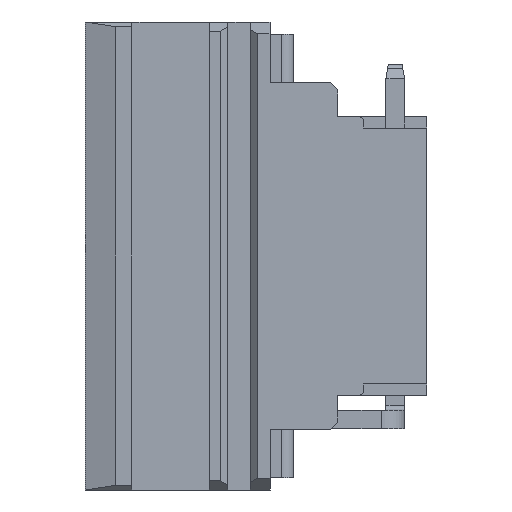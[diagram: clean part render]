
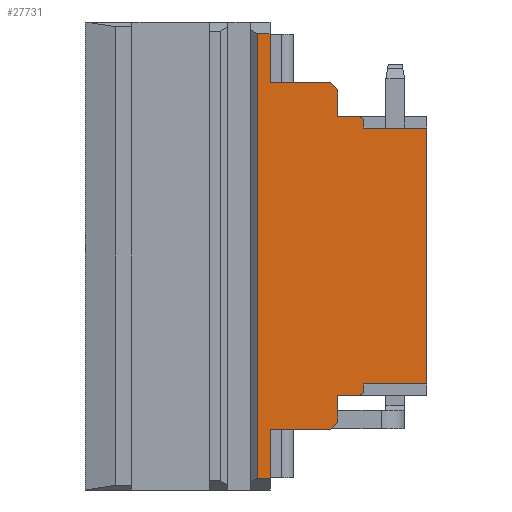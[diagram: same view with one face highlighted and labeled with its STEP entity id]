
A CAD part, left-side view. The second image highlights one B-rep face of the part: STEP entity #27731.
In plain terms, the highlighted planar face has unit normal (-1, 0, 0).
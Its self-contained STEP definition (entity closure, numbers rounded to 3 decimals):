
#1811=DIRECTION('',(0.,0.,-1.));
#1812=VECTOR('',#1811,10.94);
#1813=CARTESIAN_POINT('',(-8.3,-14.6,5.47));
#1814=LINE('',#1813,#1812);
#4881=DIRECTION('',(0.,-1.,0.));
#4882=VECTOR('',#4881,2.7);
#4883=CARTESIAN_POINT('',(-8.3,-11.9,5.47));
#4884=LINE('',#4883,#4882);
#9027=DIRECTION('',(0.,0.707,0.707));
#9028=VECTOR('',#9027,0.424);
#9029=CARTESIAN_POINT('',(-8.3,-10.8,7.1));
#9030=LINE('',#9029,#9028);
#9031=CARTESIAN_POINT('',(-8.3,-11.7,5.75));
#9032=DIRECTION('',(-1.,0.,0.));
#9033=DIRECTION('',(0.,-1.,0.));
#9034=AXIS2_PLACEMENT_3D('',#9031,#9032,#9033);
#9036=DIRECTION('',(0.,-1.,0.));
#9037=VECTOR('',#9036,2.7);
#9038=CARTESIAN_POINT('',(-8.3,-11.9,-5.47));
#9039=LINE('',#9038,#9037);
#9040=CARTESIAN_POINT('',(-8.3,-11.7,-5.75));
#9041=DIRECTION('',(-1.,0.,0.));
#9042=DIRECTION('',(0.,0.,-1.));
#9043=AXIS2_PLACEMENT_3D('',#9040,#9041,#9042);
#9045=DIRECTION('',(0.,-0.707,0.707));
#9046=VECTOR('',#9045,0.424);
#9047=CARTESIAN_POINT('',(-8.3,-10.5,-7.4));
#9048=LINE('',#9047,#9046);
#9049=DIRECTION('',(0.,0.,1.));
#9050=VECTOR('',#9049,2.1);
#9051=CARTESIAN_POINT('',(-8.3,-7.9,-9.5));
#9052=LINE('',#9051,#9050);
#9057=DIRECTION('',(0.,0.,1.));
#9058=VECTOR('',#9057,19.);
#9059=CARTESIAN_POINT('',(-8.3,-7.35,-9.5));
#9060=LINE('',#9059,#9058);
#9097=DIRECTION('',(0.,0.,-1.));
#9098=VECTOR('',#9097,2.1);
#9099=CARTESIAN_POINT('',(-8.3,-7.9,9.5));
#9100=LINE('',#9099,#9098);
#9154=DIRECTION('',(0.,0.,-1.));
#9155=VECTOR('',#9154,1.15);
#9156=CARTESIAN_POINT('',(-8.3,-10.8,7.1));
#9157=LINE('',#9156,#9155);
#9174=DIRECTION('',(0.,-1.,0.));
#9175=VECTOR('',#9174,2.6);
#9176=CARTESIAN_POINT('',(-8.3,-7.9,7.4));
#9177=LINE('',#9176,#9175);
#9186=DIRECTION('',(0.,-1.,0.));
#9187=VECTOR('',#9186,0.9);
#9188=CARTESIAN_POINT('',(-8.3,-10.8,5.95));
#9189=LINE('',#9188,#9187);
#9202=DIRECTION('',(0.,0.,-1.));
#9203=VECTOR('',#9202,0.28);
#9204=CARTESIAN_POINT('',(-8.3,-11.9,5.75));
#9205=LINE('',#9204,#9203);
#9214=DIRECTION('',(0.,-1.,0.));
#9215=VECTOR('',#9214,0.55);
#9216=CARTESIAN_POINT('',(-8.3,-7.35,9.5));
#9217=LINE('',#9216,#9215);
#9258=DIRECTION('',(0.,1.,0.));
#9259=VECTOR('',#9258,0.55);
#9260=CARTESIAN_POINT('',(-8.3,-7.9,-9.5));
#9261=LINE('',#9260,#9259);
#10421=DIRECTION('',(0.,1.,0.));
#10422=VECTOR('',#10421,2.6);
#10423=CARTESIAN_POINT('',(-8.3,-10.5,-7.4));
#10424=LINE('',#10423,#10422);
#10445=DIRECTION('',(0.,0.,-1.));
#10446=VECTOR('',#10445,1.15);
#10447=CARTESIAN_POINT('',(-8.3,-10.8,-5.95));
#10448=LINE('',#10447,#10446);
#10453=DIRECTION('',(0.,1.,0.));
#10454=VECTOR('',#10453,0.9);
#10455=CARTESIAN_POINT('',(-8.3,-11.7,-5.95));
#10456=LINE('',#10455,#10454);
#10473=DIRECTION('',(0.,0.,-1.));
#10474=VECTOR('',#10473,0.28);
#10475=CARTESIAN_POINT('',(-8.3,-11.9,-5.47));
#10476=LINE('',#10475,#10474);
#11978=CARTESIAN_POINT('',(-8.3,-7.9,-9.5));
#11979=VERTEX_POINT('',#11978);
#11980=CARTESIAN_POINT('',(-8.3,-7.9,-7.4));
#11981=VERTEX_POINT('',#11980);
#12298=CARTESIAN_POINT('',(-8.3,-11.9,-5.47));
#12299=VERTEX_POINT('',#12298);
#12300=CARTESIAN_POINT('',(-8.3,-14.6,-5.47));
#12301=VERTEX_POINT('',#12300);
#12316=CARTESIAN_POINT('',(-8.3,-10.5,-7.4));
#12317=CARTESIAN_POINT('',(-8.3,-10.8,-7.1));
#12318=VERTEX_POINT('',#12316);
#12319=VERTEX_POINT('',#12317);
#12320=CARTESIAN_POINT('',(-8.3,-7.35,9.5));
#12321=CARTESIAN_POINT('',(-8.3,-7.9,9.5));
#12322=VERTEX_POINT('',#12320);
#12323=VERTEX_POINT('',#12321);
#12324=CARTESIAN_POINT('',(-8.3,-7.9,7.4));
#12325=VERTEX_POINT('',#12324);
#12326=CARTESIAN_POINT('',(-8.3,-10.5,7.4));
#12327=VERTEX_POINT('',#12326);
#12328=CARTESIAN_POINT('',(-8.3,-10.8,7.1));
#12329=VERTEX_POINT('',#12328);
#12330=CARTESIAN_POINT('',(-8.3,-10.8,5.95));
#12331=VERTEX_POINT('',#12330);
#12332=CARTESIAN_POINT('',(-8.3,-11.7,5.95));
#12333=VERTEX_POINT('',#12332);
#12334=CARTESIAN_POINT('',(-8.3,-11.9,5.75));
#12335=VERTEX_POINT('',#12334);
#12336=CARTESIAN_POINT('',(-8.3,-11.9,5.47));
#12337=VERTEX_POINT('',#12336);
#12338=CARTESIAN_POINT('',(-8.3,-14.6,5.47));
#12339=VERTEX_POINT('',#12338);
#12340=CARTESIAN_POINT('',(-8.3,-11.9,-5.75));
#12341=VERTEX_POINT('',#12340);
#12342=CARTESIAN_POINT('',(-8.3,-11.7,-5.95));
#12343=VERTEX_POINT('',#12342);
#12344=CARTESIAN_POINT('',(-8.3,-10.8,-5.95));
#12345=VERTEX_POINT('',#12344);
#12346=CARTESIAN_POINT('',(-8.3,-7.35,-9.5));
#12347=VERTEX_POINT('',#12346);
#27686=CARTESIAN_POINT('',(-8.3,-7.35,-10.));
#27687=DIRECTION('',(-1.,0.,0.));
#27688=DIRECTION('',(0.,-1.,0.));
#27689=AXIS2_PLACEMENT_3D('',#27686,#27687,#27688);
#27690=PLANE('',#27689);
#27692=ORIENTED_EDGE('',*,*,#27691,.T.);
#27694=ORIENTED_EDGE('',*,*,#27693,.T.);
#27696=ORIENTED_EDGE('',*,*,#27695,.T.);
#27698=ORIENTED_EDGE('',*,*,#27697,.T.);
#27700=ORIENTED_EDGE('',*,*,#27699,.F.);
#27702=ORIENTED_EDGE('',*,*,#27701,.T.);
#27704=ORIENTED_EDGE('',*,*,#27703,.T.);
#27706=ORIENTED_EDGE('',*,*,#27705,.F.);
#27708=ORIENTED_EDGE('',*,*,#27707,.T.);
#27709=ORIENTED_EDGE('',*,*,#22286,.T.);
#27710=ORIENTED_EDGE('',*,*,#18114,.T.);
#27712=ORIENTED_EDGE('',*,*,#27711,.F.);
#27714=ORIENTED_EDGE('',*,*,#27713,.T.);
#27716=ORIENTED_EDGE('',*,*,#27715,.F.);
#27718=ORIENTED_EDGE('',*,*,#27717,.T.);
#27720=ORIENTED_EDGE('',*,*,#27719,.T.);
#27722=ORIENTED_EDGE('',*,*,#27721,.F.);
#27724=ORIENTED_EDGE('',*,*,#27723,.T.);
#27726=ORIENTED_EDGE('',*,*,#27725,.F.);
#27728=ORIENTED_EDGE('',*,*,#27727,.T.);
#27729=EDGE_LOOP('',(#27692,#27694,#27696,#27698,#27700,#27702,#27704,#27706,
#27708,#27709,#27710,#27712,#27714,#27716,#27718,#27720,#27722,#27724,#27726,
#27728));
#27730=FACE_OUTER_BOUND('',#27729,.F.);
#27731=ADVANCED_FACE('',(#27730),#27690,.T.);
#9035=CIRCLE('',#9034,0.2);
#9044=CIRCLE('',#9043,0.2);
#18114=EDGE_CURVE('',#12339,#12301,#1814,.T.);
#22286=EDGE_CURVE('',#12337,#12339,#4884,.T.);
#27691=EDGE_CURVE('',#12347,#12322,#9060,.T.);
#27693=EDGE_CURVE('',#12322,#12323,#9217,.T.);
#27695=EDGE_CURVE('',#12323,#12325,#9100,.T.);
#27697=EDGE_CURVE('',#12325,#12327,#9177,.T.);
#27699=EDGE_CURVE('',#12329,#12327,#9030,.T.);
#27701=EDGE_CURVE('',#12329,#12331,#9157,.T.);
#27703=EDGE_CURVE('',#12331,#12333,#9189,.T.);
#27705=EDGE_CURVE('',#12335,#12333,#9035,.T.);
#27707=EDGE_CURVE('',#12335,#12337,#9205,.T.);
#27711=EDGE_CURVE('',#12299,#12301,#9039,.T.);
#27713=EDGE_CURVE('',#12299,#12341,#10476,.T.);
#27715=EDGE_CURVE('',#12343,#12341,#9044,.T.);
#27717=EDGE_CURVE('',#12343,#12345,#10456,.T.);
#27719=EDGE_CURVE('',#12345,#12319,#10448,.T.);
#27721=EDGE_CURVE('',#12318,#12319,#9048,.T.);
#27723=EDGE_CURVE('',#12318,#11981,#10424,.T.);
#27725=EDGE_CURVE('',#11979,#11981,#9052,.T.);
#27727=EDGE_CURVE('',#11979,#12347,#9261,.T.);
